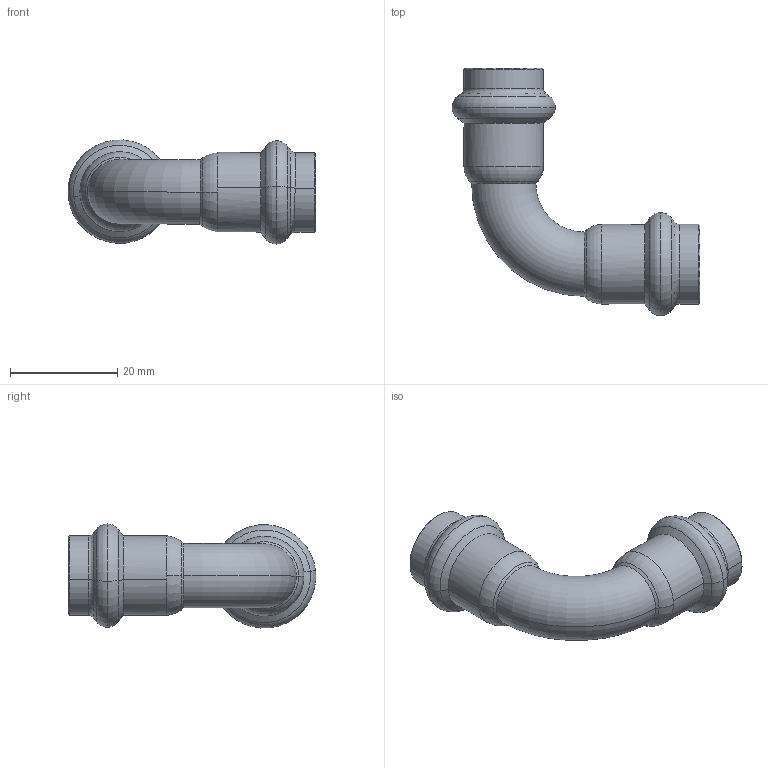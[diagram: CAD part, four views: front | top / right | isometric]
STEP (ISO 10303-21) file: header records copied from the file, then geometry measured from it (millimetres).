
FILE_DESCRIPTION(('CoCreate Modeling STEP Export'),'2;1');
FILE_NAME('8002VW12.stp','2013-01-29T13:50:21',(''),(''),'CoCreate Modeling STEP processor for AP214 (Solid Model)','CoCreate Modeling 17.00A 17-Jun-2010 (C) Parametric Technology GmbH','');
FILE_SCHEMA(('AUTOMOTIVE_DESIGN { 1 0 10303 214 1 1 1 1 }'));
Length unit declared in the file: millimetre
Products named in the file (1): 8002VW12
Bounding box: 46.23 x 46.19 x 19.4 mm (x, y, z)
Volume: 4448 mm3; surface area: 5826.3 mm2
Topology: 1 solids, 1 shells, 86 faces, 202 edges, 122 vertices
Faces by surface type: torus 32, cone 28, cylinder 20, plane 6
Entity records: 1962 total; most frequent: ORIENTED_EDGE 404, DIRECTION 298, CARTESIAN_POINT 295, EDGE_CURVE 202, AXIS2_PLACEMENT_3D 125, VERTEX_POINT 122, EDGE_LOOP 92, FACE_OUTER_BOUND 86
